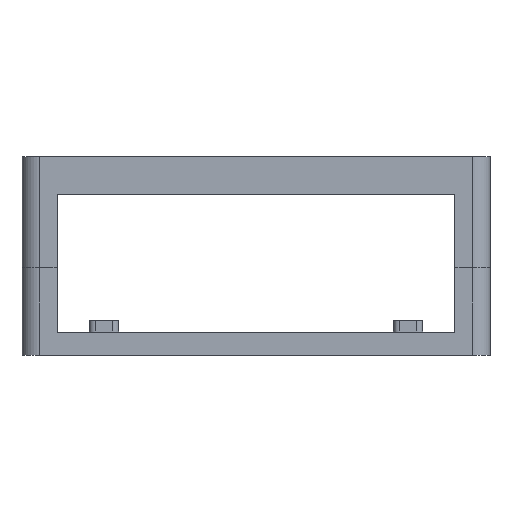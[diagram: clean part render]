
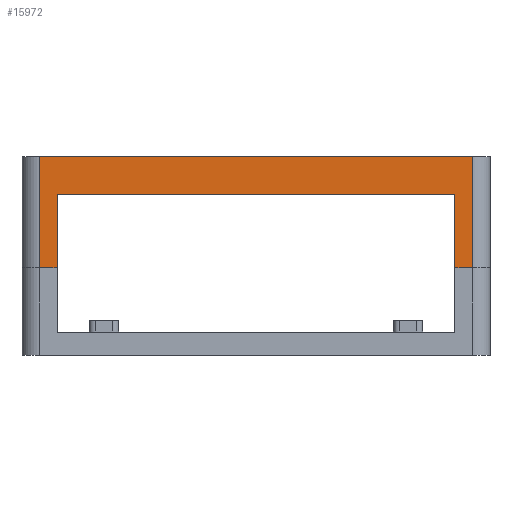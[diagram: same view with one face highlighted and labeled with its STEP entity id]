
A CAD part, left-side view. The second image highlights one B-rep face of the part: STEP entity #15972.
In plain terms, the highlighted planar face has unit normal (-1, 0, 0).
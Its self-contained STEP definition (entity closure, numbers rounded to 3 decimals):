
#15972 = ADVANCED_FACE('',(#15973),#15987,.F.);
#15973 = FACE_BOUND('',#15974,.F.);
#15974 = EDGE_LOOP('',(#15975,#16010,#16038,#16066,#16092,#16118,#16144,
    #16172));
#15975 = ORIENTED_EDGE('',*,*,#15976,.F.);
#15976 = EDGE_CURVE('',#15977,#15979,#15981,.T.);
#15977 = VERTEX_POINT('',#15978);
#15978 = CARTESIAN_POINT('',(0.,6.,68.));
#15979 = VERTEX_POINT('',#15980);
#15980 = CARTESIAN_POINT('',(0.,154.,68.));
#15981 = SURFACE_CURVE('',#15982,(#15986,#15998),.PCURVE_S1.);
#15982 = LINE('',#15983,#15984);
#15983 = CARTESIAN_POINT('',(0.,0.,68.));
#15984 = VECTOR('',#15985,1.);
#15985 = DIRECTION('',(0.,1.,0.));
#15986 = PCURVE('',#15987,#15992);
#15987 = PLANE('',#15988);
#15988 = AXIS2_PLACEMENT_3D('',#15989,#15990,#15991);
#15989 = CARTESIAN_POINT('',(0.,0.,30.));
#15990 = DIRECTION('',(1.,0.,0.));
#15991 = DIRECTION('',(0.,0.,1.));
#15992 = DEFINITIONAL_REPRESENTATION('',(#15993),#15997);
#15993 = LINE('',#15994,#15995);
#15994 = CARTESIAN_POINT('',(38.,0.));
#15995 = VECTOR('',#15996,1.);
#15996 = DIRECTION('',(0.,-1.));
#15997 = ( GEOMETRIC_REPRESENTATION_CONTEXT(2) 
PARAMETRIC_REPRESENTATION_CONTEXT() REPRESENTATION_CONTEXT('2D SPACE',''
  ) );
#15998 = PCURVE('',#15999,#16004);
#15999 = PLANE('',#16000);
#16000 = AXIS2_PLACEMENT_3D('',#16001,#16002,#16003);
#16001 = CARTESIAN_POINT('',(0.,0.,68.));
#16002 = DIRECTION('',(0.,0.,1.));
#16003 = DIRECTION('',(1.,0.,0.));
#16004 = DEFINITIONAL_REPRESENTATION('',(#16005),#16009);
#16005 = LINE('',#16006,#16007);
#16006 = CARTESIAN_POINT('',(0.,0.));
#16007 = VECTOR('',#16008,1.);
#16008 = DIRECTION('',(0.,1.));
#16009 = ( GEOMETRIC_REPRESENTATION_CONTEXT(2) 
PARAMETRIC_REPRESENTATION_CONTEXT() REPRESENTATION_CONTEXT('2D SPACE',''
  ) );
#16010 = ORIENTED_EDGE('',*,*,#16011,.F.);
#16011 = EDGE_CURVE('',#16012,#15977,#16014,.T.);
#16012 = VERTEX_POINT('',#16013);
#16013 = CARTESIAN_POINT('',(0.,6.,30.));
#16014 = SURFACE_CURVE('',#16015,(#16019,#16026),.PCURVE_S1.);
#16015 = LINE('',#16016,#16017);
#16016 = CARTESIAN_POINT('',(0.,6.,30.));
#16017 = VECTOR('',#16018,1.);
#16018 = DIRECTION('',(0.,0.,1.));
#16019 = PCURVE('',#15987,#16020);
#16020 = DEFINITIONAL_REPRESENTATION('',(#16021),#16025);
#16021 = LINE('',#16022,#16023);
#16022 = CARTESIAN_POINT('',(0.,-6.));
#16023 = VECTOR('',#16024,1.);
#16024 = DIRECTION('',(1.,0.));
#16025 = ( GEOMETRIC_REPRESENTATION_CONTEXT(2) 
PARAMETRIC_REPRESENTATION_CONTEXT() REPRESENTATION_CONTEXT('2D SPACE',''
  ) );
#16026 = PCURVE('',#16027,#16032);
#16027 = CYLINDRICAL_SURFACE('',#16028,6.);
#16028 = AXIS2_PLACEMENT_3D('',#16029,#16030,#16031);
#16029 = CARTESIAN_POINT('',(6.,6.,30.));
#16030 = DIRECTION('',(0.,0.,1.));
#16031 = DIRECTION('',(-1.,-0.,0.));
#16032 = DEFINITIONAL_REPRESENTATION('',(#16033),#16037);
#16033 = LINE('',#16034,#16035);
#16034 = CARTESIAN_POINT('',(0.,0.));
#16035 = VECTOR('',#16036,1.);
#16036 = DIRECTION('',(0.,1.));
#16037 = ( GEOMETRIC_REPRESENTATION_CONTEXT(2) 
PARAMETRIC_REPRESENTATION_CONTEXT() REPRESENTATION_CONTEXT('2D SPACE',''
  ) );
#16038 = ORIENTED_EDGE('',*,*,#16039,.T.);
#16039 = EDGE_CURVE('',#16012,#16040,#16042,.T.);
#16040 = VERTEX_POINT('',#16041);
#16041 = CARTESIAN_POINT('',(0.,12.,30.));
#16042 = SURFACE_CURVE('',#16043,(#16047,#16054),.PCURVE_S1.);
#16043 = LINE('',#16044,#16045);
#16044 = CARTESIAN_POINT('',(0.,0.,30.));
#16045 = VECTOR('',#16046,1.);
#16046 = DIRECTION('',(0.,1.,0.));
#16047 = PCURVE('',#15987,#16048);
#16048 = DEFINITIONAL_REPRESENTATION('',(#16049),#16053);
#16049 = LINE('',#16050,#16051);
#16050 = CARTESIAN_POINT('',(0.,0.));
#16051 = VECTOR('',#16052,1.);
#16052 = DIRECTION('',(0.,-1.));
#16053 = ( GEOMETRIC_REPRESENTATION_CONTEXT(2) 
PARAMETRIC_REPRESENTATION_CONTEXT() REPRESENTATION_CONTEXT('2D SPACE',''
  ) );
#16054 = PCURVE('',#16055,#16060);
#16055 = PLANE('',#16056);
#16056 = AXIS2_PLACEMENT_3D('',#16057,#16058,#16059);
#16057 = CARTESIAN_POINT('',(0.,0.,30.));
#16058 = DIRECTION('',(0.,0.,1.));
#16059 = DIRECTION('',(1.,0.,0.));
#16060 = DEFINITIONAL_REPRESENTATION('',(#16061),#16065);
#16061 = LINE('',#16062,#16063);
#16062 = CARTESIAN_POINT('',(0.,0.));
#16063 = VECTOR('',#16064,1.);
#16064 = DIRECTION('',(0.,1.));
#16065 = ( GEOMETRIC_REPRESENTATION_CONTEXT(2) 
PARAMETRIC_REPRESENTATION_CONTEXT() REPRESENTATION_CONTEXT('2D SPACE',''
  ) );
#16066 = ORIENTED_EDGE('',*,*,#16067,.T.);
#16067 = EDGE_CURVE('',#16040,#16068,#16070,.T.);
#16068 = VERTEX_POINT('',#16069);
#16069 = CARTESIAN_POINT('',(0.,12.,55.));
#16070 = SURFACE_CURVE('',#16071,(#16075,#16081),.PCURVE_S1.);
#16071 = LINE('',#16072,#16073);
#16072 = CARTESIAN_POINT('',(0.,12.,19.));
#16073 = VECTOR('',#16074,1.);
#16074 = DIRECTION('',(0.,0.,1.));
#16075 = PCURVE('',#15987,#16076);
#16076 = DEFINITIONAL_REPRESENTATION('',(#16077),#16080);
#16077 = B_SPLINE_CURVE_WITH_KNOTS('',1,(#16078,#16079),.UNSPECIFIED.,
  .F.,.F.,(2,2),(11.,36.),.PIECEWISE_BEZIER_KNOTS.);
#16078 = CARTESIAN_POINT('',(0.,-12.));
#16079 = CARTESIAN_POINT('',(25.,-12.));
#16080 = ( GEOMETRIC_REPRESENTATION_CONTEXT(2) 
PARAMETRIC_REPRESENTATION_CONTEXT() REPRESENTATION_CONTEXT('2D SPACE',''
  ) );
#16081 = PCURVE('',#16082,#16087);
#16082 = PLANE('',#16083);
#16083 = AXIS2_PLACEMENT_3D('',#16084,#16085,#16086);
#16084 = CARTESIAN_POINT('',(-1.,12.,8.));
#16085 = DIRECTION('',(0.,1.,0.));
#16086 = DIRECTION('',(0.,0.,1.));
#16087 = DEFINITIONAL_REPRESENTATION('',(#16088),#16091);
#16088 = B_SPLINE_CURVE_WITH_KNOTS('',1,(#16089,#16090),.UNSPECIFIED.,
  .F.,.F.,(2,2),(11.,36.),.PIECEWISE_BEZIER_KNOTS.);
#16089 = CARTESIAN_POINT('',(22.,1.));
#16090 = CARTESIAN_POINT('',(47.,1.));
#16091 = ( GEOMETRIC_REPRESENTATION_CONTEXT(2) 
PARAMETRIC_REPRESENTATION_CONTEXT() REPRESENTATION_CONTEXT('2D SPACE',''
  ) );
#16092 = ORIENTED_EDGE('',*,*,#16093,.F.);
#16093 = EDGE_CURVE('',#16094,#16068,#16096,.T.);
#16094 = VERTEX_POINT('',#16095);
#16095 = CARTESIAN_POINT('',(0.,148.,55.));
#16096 = SURFACE_CURVE('',#16097,(#16101,#16107),.PCURVE_S1.);
#16097 = LINE('',#16098,#16099);
#16098 = CARTESIAN_POINT('',(0.,6.,55.));
#16099 = VECTOR('',#16100,1.);
#16100 = DIRECTION('',(0.,-1.,0.));
#16101 = PCURVE('',#15987,#16102);
#16102 = DEFINITIONAL_REPRESENTATION('',(#16103),#16106);
#16103 = B_SPLINE_CURVE_WITH_KNOTS('',1,(#16104,#16105),.UNSPECIFIED.,
  .F.,.F.,(2,2),(-142.,-6.),.PIECEWISE_BEZIER_KNOTS.);
#16104 = CARTESIAN_POINT('',(25.,-148.));
#16105 = CARTESIAN_POINT('',(25.,-12.));
#16106 = ( GEOMETRIC_REPRESENTATION_CONTEXT(2) 
PARAMETRIC_REPRESENTATION_CONTEXT() REPRESENTATION_CONTEXT('2D SPACE',''
  ) );
#16107 = PCURVE('',#16108,#16113);
#16108 = PLANE('',#16109);
#16109 = AXIS2_PLACEMENT_3D('',#16110,#16111,#16112);
#16110 = CARTESIAN_POINT('',(-1.,12.,55.));
#16111 = DIRECTION('',(0.,0.,1.));
#16112 = DIRECTION('',(1.,0.,0.));
#16113 = DEFINITIONAL_REPRESENTATION('',(#16114),#16117);
#16114 = B_SPLINE_CURVE_WITH_KNOTS('',1,(#16115,#16116),.UNSPECIFIED.,
  .F.,.F.,(2,2),(-142.,-6.),.PIECEWISE_BEZIER_KNOTS.);
#16115 = CARTESIAN_POINT('',(1.,136.));
#16116 = CARTESIAN_POINT('',(1.,0.));
#16117 = ( GEOMETRIC_REPRESENTATION_CONTEXT(2) 
PARAMETRIC_REPRESENTATION_CONTEXT() REPRESENTATION_CONTEXT('2D SPACE',''
  ) );
#16118 = ORIENTED_EDGE('',*,*,#16119,.F.);
#16119 = EDGE_CURVE('',#16120,#16094,#16122,.T.);
#16120 = VERTEX_POINT('',#16121);
#16121 = CARTESIAN_POINT('',(0.,148.,30.));
#16122 = SURFACE_CURVE('',#16123,(#16127,#16133),.PCURVE_S1.);
#16123 = LINE('',#16124,#16125);
#16124 = CARTESIAN_POINT('',(0.,148.,19.));
#16125 = VECTOR('',#16126,1.);
#16126 = DIRECTION('',(0.,0.,1.));
#16127 = PCURVE('',#15987,#16128);
#16128 = DEFINITIONAL_REPRESENTATION('',(#16129),#16132);
#16129 = B_SPLINE_CURVE_WITH_KNOTS('',1,(#16130,#16131),.UNSPECIFIED.,
  .F.,.F.,(2,2),(11.,36.),.PIECEWISE_BEZIER_KNOTS.);
#16130 = CARTESIAN_POINT('',(0.,-148.));
#16131 = CARTESIAN_POINT('',(25.,-148.));
#16132 = ( GEOMETRIC_REPRESENTATION_CONTEXT(2) 
PARAMETRIC_REPRESENTATION_CONTEXT() REPRESENTATION_CONTEXT('2D SPACE',''
  ) );
#16133 = PCURVE('',#16134,#16139);
#16134 = PLANE('',#16135);
#16135 = AXIS2_PLACEMENT_3D('',#16136,#16137,#16138);
#16136 = CARTESIAN_POINT('',(-1.,148.,8.));
#16137 = DIRECTION('',(0.,1.,0.));
#16138 = DIRECTION('',(0.,0.,1.));
#16139 = DEFINITIONAL_REPRESENTATION('',(#16140),#16143);
#16140 = B_SPLINE_CURVE_WITH_KNOTS('',1,(#16141,#16142),.UNSPECIFIED.,
  .F.,.F.,(2,2),(11.,36.),.PIECEWISE_BEZIER_KNOTS.);
#16141 = CARTESIAN_POINT('',(22.,1.));
#16142 = CARTESIAN_POINT('',(47.,1.));
#16143 = ( GEOMETRIC_REPRESENTATION_CONTEXT(2) 
PARAMETRIC_REPRESENTATION_CONTEXT() REPRESENTATION_CONTEXT('2D SPACE',''
  ) );
#16144 = ORIENTED_EDGE('',*,*,#16145,.T.);
#16145 = EDGE_CURVE('',#16120,#16146,#16148,.T.);
#16146 = VERTEX_POINT('',#16147);
#16147 = CARTESIAN_POINT('',(0.,154.,30.));
#16148 = SURFACE_CURVE('',#16149,(#16153,#16160),.PCURVE_S1.);
#16149 = LINE('',#16150,#16151);
#16150 = CARTESIAN_POINT('',(0.,0.,30.));
#16151 = VECTOR('',#16152,1.);
#16152 = DIRECTION('',(0.,1.,0.));
#16153 = PCURVE('',#15987,#16154);
#16154 = DEFINITIONAL_REPRESENTATION('',(#16155),#16159);
#16155 = LINE('',#16156,#16157);
#16156 = CARTESIAN_POINT('',(0.,0.));
#16157 = VECTOR('',#16158,1.);
#16158 = DIRECTION('',(0.,-1.));
#16159 = ( GEOMETRIC_REPRESENTATION_CONTEXT(2) 
PARAMETRIC_REPRESENTATION_CONTEXT() REPRESENTATION_CONTEXT('2D SPACE',''
  ) );
#16160 = PCURVE('',#16161,#16166);
#16161 = PLANE('',#16162);
#16162 = AXIS2_PLACEMENT_3D('',#16163,#16164,#16165);
#16163 = CARTESIAN_POINT('',(0.,0.,30.));
#16164 = DIRECTION('',(0.,0.,1.));
#16165 = DIRECTION('',(1.,0.,0.));
#16166 = DEFINITIONAL_REPRESENTATION('',(#16167),#16171);
#16167 = LINE('',#16168,#16169);
#16168 = CARTESIAN_POINT('',(0.,0.));
#16169 = VECTOR('',#16170,1.);
#16170 = DIRECTION('',(0.,1.));
#16171 = ( GEOMETRIC_REPRESENTATION_CONTEXT(2) 
PARAMETRIC_REPRESENTATION_CONTEXT() REPRESENTATION_CONTEXT('2D SPACE',''
  ) );
#16172 = ORIENTED_EDGE('',*,*,#16173,.T.);
#16173 = EDGE_CURVE('',#16146,#15979,#16174,.T.);
#16174 = SURFACE_CURVE('',#16175,(#16179,#16186),.PCURVE_S1.);
#16175 = LINE('',#16176,#16177);
#16176 = CARTESIAN_POINT('',(0.,154.,30.));
#16177 = VECTOR('',#16178,1.);
#16178 = DIRECTION('',(0.,0.,1.));
#16179 = PCURVE('',#15987,#16180);
#16180 = DEFINITIONAL_REPRESENTATION('',(#16181),#16185);
#16181 = LINE('',#16182,#16183);
#16182 = CARTESIAN_POINT('',(0.,-154.));
#16183 = VECTOR('',#16184,1.);
#16184 = DIRECTION('',(1.,0.));
#16185 = ( GEOMETRIC_REPRESENTATION_CONTEXT(2) 
PARAMETRIC_REPRESENTATION_CONTEXT() REPRESENTATION_CONTEXT('2D SPACE',''
  ) );
#16186 = PCURVE('',#16187,#16192);
#16187 = CYLINDRICAL_SURFACE('',#16188,6.);
#16188 = AXIS2_PLACEMENT_3D('',#16189,#16190,#16191);
#16189 = CARTESIAN_POINT('',(6.,154.,30.));
#16190 = DIRECTION('',(0.,0.,1.));
#16191 = DIRECTION('',(-1.,-0.,0.));
#16192 = DEFINITIONAL_REPRESENTATION('',(#16193),#16197);
#16193 = LINE('',#16194,#16195);
#16194 = CARTESIAN_POINT('',(-0.,0.));
#16195 = VECTOR('',#16196,1.);
#16196 = DIRECTION('',(-0.,1.));
#16197 = ( GEOMETRIC_REPRESENTATION_CONTEXT(2) 
PARAMETRIC_REPRESENTATION_CONTEXT() REPRESENTATION_CONTEXT('2D SPACE',''
  ) );
